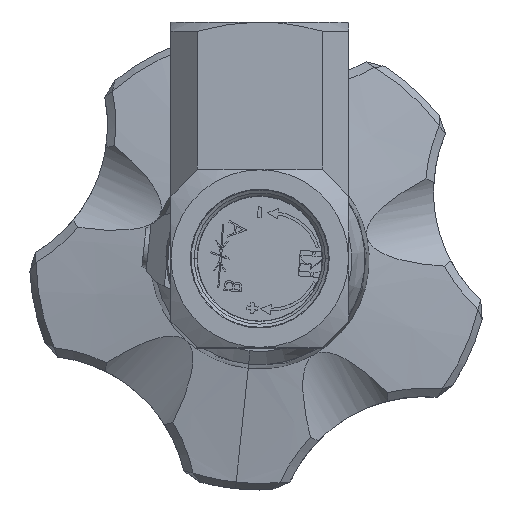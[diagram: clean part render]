
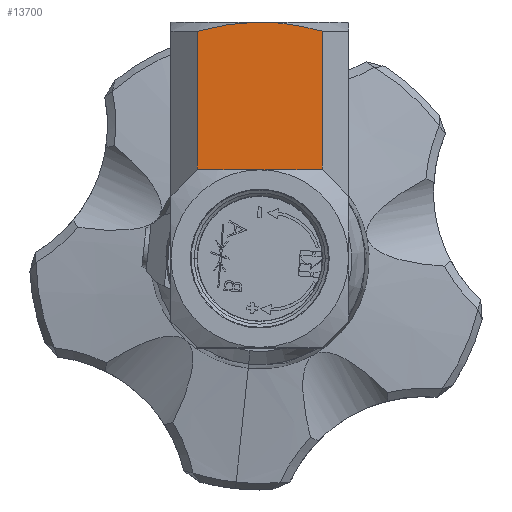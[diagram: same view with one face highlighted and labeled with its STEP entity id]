
A CAD part, top view. The second image highlights one B-rep face of the part: STEP entity #13700.
In plain terms, the highlighted planar face has unit normal (0, 0, 1).
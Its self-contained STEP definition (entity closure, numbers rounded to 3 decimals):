
#933 = CARTESIAN_POINT ( 'NONE',  ( -6.36, 35.371, 5. ) ) ;
#1088 = ORIENTED_EDGE ( 'NONE', *, *, #27061, .T. ) ;
#1890 = VERTEX_POINT ( 'NONE', #28299 ) ;
#2074 = VECTOR ( 'NONE', #32915, 1000. ) ;
#2474 = ORIENTED_EDGE ( 'NONE', *, *, #7604, .T. ) ;
#3256 = EDGE_CURVE ( 'NONE', #1890, #15109, #16578, .T. ) ;
#3286 = ORIENTED_EDGE ( 'NONE', *, *, #3256, .F. ) ;
#3642 = CARTESIAN_POINT ( 'NONE',  ( -1.598, 36., 5. ) ) ;
#4450 = EDGE_LOOP ( 'NONE', ( #3286, #1088, #2474, #8865, #32180 ) ) ;
#4872 = CARTESIAN_POINT ( 'NONE',  ( 9.5, 34.598, 5. ) ) ;
#5700 = VECTOR ( 'NONE', #28684, 1000. ) ;
#5738 = CARTESIAN_POINT ( 'NONE',  ( -13.5, 36., 5. ) ) ;
#7021 = CARTESIAN_POINT ( 'NONE',  ( 1.6, 35.967, 5. ) ) ;
#7604 = EDGE_CURVE ( 'NONE', #17928, #27331, #18633, .T. ) ;
#8461 = DIRECTION ( 'NONE',  ( -1., 0., 0. ) ) ;
#8865 = ORIENTED_EDGE ( 'NONE', *, *, #11961, .T. ) ;
#9594 = CARTESIAN_POINT ( 'NONE',  ( 0., 36., 5. ) ) ;
#9708 = CARTESIAN_POINT ( 'NONE',  ( 4.011, 35.737, 5. ) ) ;
#11529 = VECTOR ( 'NONE', #14812, 1000. ) ;
#11569 = FACE_OUTER_BOUND ( 'NONE', #4450, .T. ) ;
#11961 = EDGE_CURVE ( 'NONE', #27331, #18394, #16365, .T. ) ;
#12358 = CARTESIAN_POINT ( 'NONE',  ( 7.962, 35.01, 5. ) ) ;
#13113 = CARTESIAN_POINT ( 'NONE',  ( -9.5, 13.5, 5. ) ) ;
#13700 = ADVANCED_FACE ( 'NONE', ( #11569 ), #21652, .F. ) ;
#14046 = CARTESIAN_POINT ( 'NONE',  ( 9.5, 13.5, 5. ) ) ;
#14812 = DIRECTION ( 'NONE',  ( 1., 0., 0. ) ) ;
#15109 = VERTEX_POINT ( 'NONE', #31398 ) ;
#16365 = LINE ( 'NONE', #30231, #2074 ) ;
#16578 = B_SPLINE_CURVE_WITH_KNOTS ( 'NONE', 3,
 ( #30391, #33089, #933, #19713, #3642, #22393 ),
 .UNSPECIFIED., .F., .F.,
 ( 4, 2, 4 ),
 ( 0.014, 0.018, 0.023 ),
 .UNSPECIFIED. ) ;
#17928 = VERTEX_POINT ( 'NONE', #13113 ) ;
#18394 = VERTEX_POINT ( 'NONE', #4872 ) ;
#18633 = LINE ( 'NONE', #22773, #11529 ) ;
#19713 = CARTESIAN_POINT ( 'NONE',  ( -3.189, 35.864, 5. ) ) ;
#21652 = PLANE ( 'NONE',  #29513 ) ;
#22393 = CARTESIAN_POINT ( 'NONE',  ( 0., 36., 5. ) ) ;
#22773 = CARTESIAN_POINT ( 'NONE',  ( -13.5, 13.5, 5. ) ) ;
#24482 = DIRECTION ( 'NONE',  ( 0., 0., -1. ) ) ;
#25395 = CARTESIAN_POINT ( 'NONE',  ( 0.799, 36., 5. ) ) ;
#25726 = CARTESIAN_POINT ( 'NONE',  ( 3.204, 35.836, 5. ) ) ;
#26096 = CARTESIAN_POINT ( 'NONE',  ( -9.5, 36., 5. ) ) ;
#26224 = LINE ( 'NONE', #26096, #5700 ) ;
#27061 = EDGE_CURVE ( 'NONE', #1890, #17928, #26224, .T. ) ;
#27331 = VERTEX_POINT ( 'NONE', #14046 ) ;
#28299 = CARTESIAN_POINT ( 'NONE',  ( -9.5, 34.598, 5. ) ) ;
#28431 = CARTESIAN_POINT ( 'NONE',  ( 6.403, 35.363, 5. ) ) ;
#28684 = DIRECTION ( 'NONE',  ( 0., -1., 0. ) ) ;
#29513 = AXIS2_PLACEMENT_3D ( 'NONE', #5738, #24482, #8461 ) ;
#30231 = CARTESIAN_POINT ( 'NONE',  ( 9.5, 36., 5. ) ) ;
#30391 = CARTESIAN_POINT ( 'NONE',  ( -9.5, 34.598, 5. ) ) ;
#31151 = CARTESIAN_POINT ( 'NONE',  ( 9.5, 34.598, 5. ) ) ;
#31398 = CARTESIAN_POINT ( 'NONE',  ( 0., 36., 5. ) ) ;
#32180 = ORIENTED_EDGE ( 'NONE', *, *, #33667, .F. ) ;
#32617 = B_SPLINE_CURVE_WITH_KNOTS ( 'NONE', 3,
 ( #9594, #25395, #7021, #25726, #9708, #28431, #12358, #31151 ),
 .UNSPECIFIED., .F., .F.,
 ( 4, 2, 2, 4 ),
 ( 0.023, 0.026, 0.028, 0.033 ),
 .UNSPECIFIED. ) ;
#32915 = DIRECTION ( 'NONE',  ( 0., 1., 0. ) ) ;
#33089 = CARTESIAN_POINT ( 'NONE',  ( -7.944, 35.015, 5. ) ) ;
#33667 = EDGE_CURVE ( 'NONE', #15109, #18394, #32617, .T. ) ;
